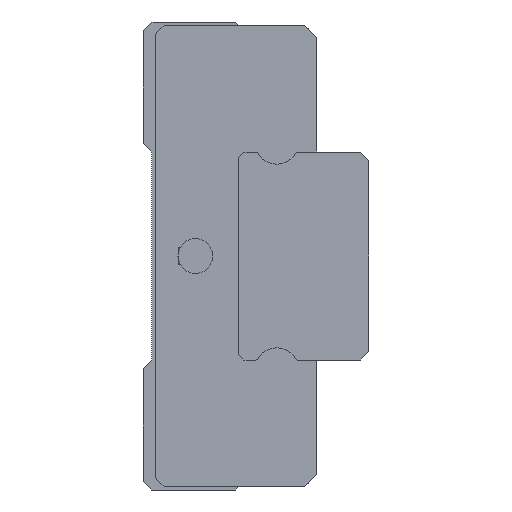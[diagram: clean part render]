
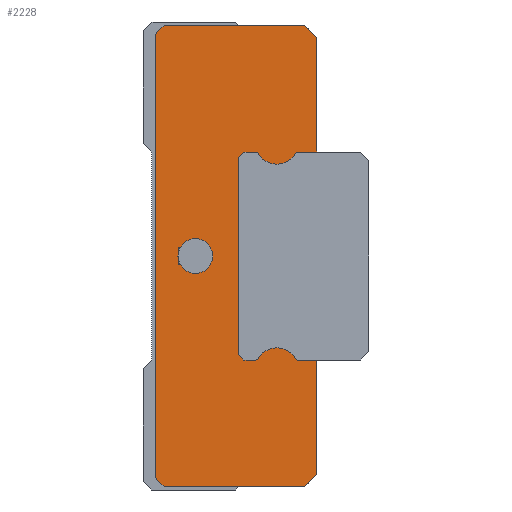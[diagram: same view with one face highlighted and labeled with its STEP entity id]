
A CAD part, left-side view. The second image highlights one B-rep face of the part: STEP entity #2228.
In plain terms, the highlighted planar face has unit normal (-1, 0, 0).
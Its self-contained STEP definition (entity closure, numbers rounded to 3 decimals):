
#98=CIRCLE('',#2442,1.);
#99=CIRCLE('',#2443,0.15);
#100=CIRCLE('',#2444,1.25);
#101=CIRCLE('',#2445,0.15);
#102=CIRCLE('',#2446,0.15);
#103=CIRCLE('',#2447,1.25);
#104=CIRCLE('',#2448,0.15);
#471=ORIENTED_EDGE('',*,*,#943,.T.);
#472=ORIENTED_EDGE('',*,*,#944,.T.);
#473=ORIENTED_EDGE('',*,*,#926,.F.);
#474=ORIENTED_EDGE('',*,*,#850,.F.);
#475=ORIENTED_EDGE('',*,*,#846,.F.);
#476=ORIENTED_EDGE('',*,*,#867,.F.);
#477=ORIENTED_EDGE('',*,*,#919,.F.);
#478=ORIENTED_EDGE('',*,*,#911,.F.);
#479=ORIENTED_EDGE('',*,*,#917,.F.);
#480=ORIENTED_EDGE('',*,*,#888,.F.);
#481=ORIENTED_EDGE('',*,*,#928,.F.);
#482=ORIENTED_EDGE('',*,*,#945,.F.);
#483=ORIENTED_EDGE('',*,*,#946,.T.);
#484=ORIENTED_EDGE('',*,*,#947,.F.);
#485=ORIENTED_EDGE('',*,*,#948,.T.);
#486=ORIENTED_EDGE('',*,*,#949,.T.);
#487=ORIENTED_EDGE('',*,*,#950,.T.);
#488=ORIENTED_EDGE('',*,*,#951,.T.);
#489=ORIENTED_EDGE('',*,*,#952,.T.);
#490=ORIENTED_EDGE('',*,*,#953,.T.);
#491=ORIENTED_EDGE('',*,*,#954,.T.);
#492=ORIENTED_EDGE('',*,*,#955,.F.);
#493=ORIENTED_EDGE('',*,*,#956,.T.);
#846=EDGE_CURVE('',#1126,#1127,#1308,.T.);
#850=EDGE_CURVE('',#1127,#1129,#1312,.T.);
#867=EDGE_CURVE('',#1142,#1126,#1329,.T.);
#888=EDGE_CURVE('',#1159,#1160,#1350,.T.);
#911=EDGE_CURVE('',#1177,#1178,#1373,.T.);
#917=EDGE_CURVE('',#1160,#1177,#1379,.T.);
#919=EDGE_CURVE('',#1178,#1142,#1381,.T.);
#926=EDGE_CURVE('',#1129,#1181,#1388,.T.);
#928=EDGE_CURVE('',#1182,#1159,#1390,.T.);
#943=EDGE_CURVE('',#1196,#1196,#98,.T.);
#944=EDGE_CURVE('',#1197,#1181,#1399,.T.);
#945=EDGE_CURVE('',#1198,#1182,#1400,.T.);
#946=EDGE_CURVE('',#1198,#1199,#99,.T.);
#947=EDGE_CURVE('',#1200,#1199,#100,.T.);
#948=EDGE_CURVE('',#1200,#1201,#101,.T.);
#949=EDGE_CURVE('',#1201,#1202,#1401,.T.);
#950=EDGE_CURVE('',#1202,#1203,#1402,.T.);
#951=EDGE_CURVE('',#1203,#1204,#1403,.T.);
#952=EDGE_CURVE('',#1204,#1205,#1404,.T.);
#953=EDGE_CURVE('',#1205,#1206,#1405,.T.);
#954=EDGE_CURVE('',#1206,#1207,#102,.T.);
#955=EDGE_CURVE('',#1208,#1207,#103,.T.);
#956=EDGE_CURVE('',#1208,#1197,#104,.T.);
#1126=VERTEX_POINT('',#3397);
#1127=VERTEX_POINT('',#3399);
#1129=VERTEX_POINT('',#3406);
#1142=VERTEX_POINT('',#3438);
#1159=VERTEX_POINT('',#3481);
#1160=VERTEX_POINT('',#3483);
#1177=VERTEX_POINT('',#3527);
#1178=VERTEX_POINT('',#3529);
#1181=VERTEX_POINT('',#3552);
#1182=VERTEX_POINT('',#3557);
#1196=VERTEX_POINT('',#3589);
#1197=VERTEX_POINT('',#3591);
#1198=VERTEX_POINT('',#3593);
#1199=VERTEX_POINT('',#3595);
#1200=VERTEX_POINT('',#3597);
#1201=VERTEX_POINT('',#3599);
#1202=VERTEX_POINT('',#3601);
#1203=VERTEX_POINT('',#3603);
#1204=VERTEX_POINT('',#3605);
#1205=VERTEX_POINT('',#3607);
#1206=VERTEX_POINT('',#3609);
#1207=VERTEX_POINT('',#3611);
#1208=VERTEX_POINT('',#3613);
#1308=LINE('',#3398,#1524);
#1312=LINE('',#3405,#1528);
#1329=LINE('',#3439,#1545);
#1350=LINE('',#3482,#1566);
#1373=LINE('',#3528,#1589);
#1379=LINE('',#3538,#1595);
#1381=LINE('',#3541,#1597);
#1388=LINE('',#3554,#1604);
#1390=LINE('',#3559,#1606);
#1399=LINE('',#3590,#1615);
#1400=LINE('',#3592,#1616);
#1401=LINE('',#3600,#1617);
#1402=LINE('',#3602,#1618);
#1403=LINE('',#3604,#1619);
#1404=LINE('',#3606,#1620);
#1405=LINE('',#3608,#1621);
#1524=VECTOR('',#2770,1000.);
#1528=VECTOR('',#2776,1000.);
#1545=VECTOR('',#2799,1000.);
#1566=VECTOR('',#2830,1000.);
#1589=VECTOR('',#2863,1000.);
#1595=VECTOR('',#2873,1000.);
#1597=VECTOR('',#2877,1000.);
#1604=VECTOR('',#2892,1000.);
#1606=VECTOR('',#2896,1000.);
#1615=VECTOR('',#2923,1000.);
#1616=VECTOR('',#2924,1000.);
#1617=VECTOR('',#2931,1000.);
#1618=VECTOR('',#2932,1000.);
#1619=VECTOR('',#2933,1000.);
#1620=VECTOR('',#2934,1000.);
#1621=VECTOR('',#2935,1000.);
#1803=EDGE_LOOP('',(#471));
#1804=EDGE_LOOP('',(#472,#473,#474,#475,#476,#477,#478,#479,#480,#481,#482,
#483,#484,#485,#486,#487,#488,#489,#490,#491,#492,#493));
#1991=FACE_BOUND('',#1803,.T.);
#1992=FACE_BOUND('',#1804,.T.);
#2117=PLANE('',#2441);
#2228=ADVANCED_FACE('',(#1991,#1992),#2117,.F.);
#2441=AXIS2_PLACEMENT_3D('',#3587,#2919,#2920);
#2442=AXIS2_PLACEMENT_3D('',#3588,#2921,#2922);
#2443=AXIS2_PLACEMENT_3D('',#3594,#2925,#2926);
#2444=AXIS2_PLACEMENT_3D('',#3596,#2927,#2928);
#2445=AXIS2_PLACEMENT_3D('',#3598,#2929,#2930);
#2446=AXIS2_PLACEMENT_3D('',#3610,#2936,#2937);
#2447=AXIS2_PLACEMENT_3D('',#3612,#2938,#2939);
#2448=AXIS2_PLACEMENT_3D('',#3614,#2940,#2941);
#2770=DIRECTION('',(0.,-1.,0.));
#2776=DIRECTION('',(0.,-0.707,-0.707));
#2799=DIRECTION('',(0.,-0.707,0.707));
#2830=DIRECTION('',(0.,0.707,-0.707));
#2863=DIRECTION('',(0.,0.707,0.707));
#2873=DIRECTION('',(0.,1.,0.));
#2877=DIRECTION('',(0.,0.,1.));
#2892=DIRECTION('',(0.,0.,-1.));
#2896=DIRECTION('',(0.,0.,-1.));
#2919=DIRECTION('',(1.,0.,0.));
#2920=DIRECTION('',(0.,0.,-1.));
#2921=DIRECTION('',(1.,0.,0.));
#2922=DIRECTION('',(0.,0.,-1.));
#2923=DIRECTION('',(0.,-1.,0.));
#2924=DIRECTION('',(0.,-1.,0.));
#2925=DIRECTION('',(1.,0.,0.));
#2926=DIRECTION('',(0.,0.,-1.));
#2927=DIRECTION('',(1.,0.,0.));
#2928=DIRECTION('',(0.,0.,-1.));
#2929=DIRECTION('',(1.,0.,0.));
#2930=DIRECTION('',(0.,0.,-1.));
#2931=DIRECTION('',(0.,1.,0.));
#2932=DIRECTION('',(0.,0.707,0.707));
#2933=DIRECTION('',(0.,0.,1.));
#2934=DIRECTION('',(0.,-0.707,0.707));
#2935=DIRECTION('',(0.,-1.,0.));
#2936=DIRECTION('',(1.,0.,0.));
#2937=DIRECTION('',(0.,0.,-1.));
#2938=DIRECTION('',(1.,0.,0.));
#2939=DIRECTION('',(0.,0.,-1.));
#2940=DIRECTION('',(1.,0.,0.));
#2941=DIRECTION('',(0.,0.,-1.));
#3397=CARTESIAN_POINT('',(-23.85,8.8,13.3));
#3398=CARTESIAN_POINT('',(-23.85,8.8,13.3));
#3399=CARTESIAN_POINT('',(-23.85,0.7,13.3));
#3405=CARTESIAN_POINT('',(-23.85,0.7,13.3));
#3406=CARTESIAN_POINT('',(-23.85,0.,12.6));
#3438=CARTESIAN_POINT('',(-23.85,9.3,12.8));
#3439=CARTESIAN_POINT('',(-23.85,9.3,12.8));
#3481=CARTESIAN_POINT('',(-23.85,0.,-12.6));
#3482=CARTESIAN_POINT('',(-23.85,0.,-12.6));
#3483=CARTESIAN_POINT('',(-23.85,0.7,-13.3));
#3527=CARTESIAN_POINT('',(-23.85,8.8,-13.3));
#3528=CARTESIAN_POINT('',(-23.85,8.8,-13.3));
#3529=CARTESIAN_POINT('',(-23.85,9.3,-12.8));
#3538=CARTESIAN_POINT('',(-23.85,0.7,-13.3));
#3541=CARTESIAN_POINT('',(-23.85,9.3,-12.8));
#3552=CARTESIAN_POINT('',(-23.85,0.,6.));
#3554=CARTESIAN_POINT('',(-23.85,0.,12.6));
#3557=CARTESIAN_POINT('',(-23.85,0.,-6.));
#3559=CARTESIAN_POINT('',(-23.85,0.,12.6));
#3587=CARTESIAN_POINT('',(-23.85,0.,0.));
#3588=CARTESIAN_POINT('',(-23.85,7.,0.));
#3589=CARTESIAN_POINT('',(-23.85,7.,-1.));
#3590=CARTESIAN_POINT('',(-23.85,1.088,6.));
#3591=CARTESIAN_POINT('',(-23.85,1.088,6.));
#3592=CARTESIAN_POINT('',(-23.85,0.,-6.));
#3593=CARTESIAN_POINT('',(-23.85,1.088,-6.));
#3594=CARTESIAN_POINT('',(-23.85,1.088,-5.85));
#3595=CARTESIAN_POINT('',(-23.85,1.217,-5.925));
#3596=CARTESIAN_POINT('',(-23.85,2.3,-6.55));
#3597=CARTESIAN_POINT('',(-23.85,3.383,-5.925));
#3598=CARTESIAN_POINT('',(-23.85,3.512,-5.85));
#3599=CARTESIAN_POINT('',(-23.85,3.512,-6.));
#3600=CARTESIAN_POINT('',(-23.85,3.512,-6.));
#3601=CARTESIAN_POINT('',(-23.85,4.2,-6.));
#3602=CARTESIAN_POINT('',(-23.85,4.2,-6.));
#3603=CARTESIAN_POINT('',(-23.85,4.5,-5.7));
#3604=CARTESIAN_POINT('',(-23.85,4.5,-5.7));
#3605=CARTESIAN_POINT('',(-23.85,4.5,5.7));
#3606=CARTESIAN_POINT('',(-23.85,4.5,5.7));
#3607=CARTESIAN_POINT('',(-23.85,4.2,6.));
#3608=CARTESIAN_POINT('',(-23.85,4.2,6.));
#3609=CARTESIAN_POINT('',(-23.85,3.512,6.));
#3610=CARTESIAN_POINT('',(-23.85,3.512,5.85));
#3611=CARTESIAN_POINT('',(-23.85,3.383,5.925));
#3612=CARTESIAN_POINT('',(-23.85,2.3,6.55));
#3613=CARTESIAN_POINT('',(-23.85,1.217,5.925));
#3614=CARTESIAN_POINT('',(-23.85,1.088,5.85));
